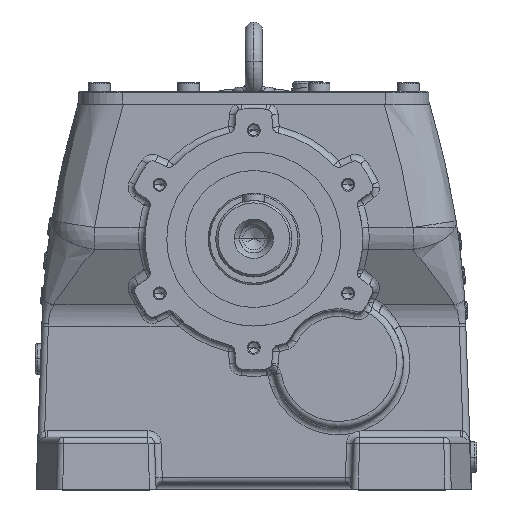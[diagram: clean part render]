
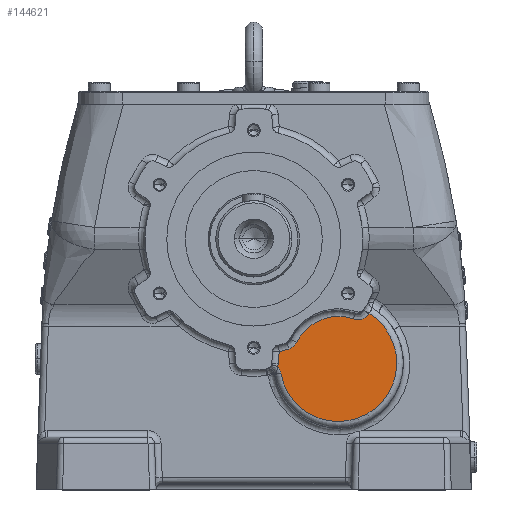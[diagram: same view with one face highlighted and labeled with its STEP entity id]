
A CAD part, top view. The second image highlights one B-rep face of the part: STEP entity #144621.
In plain terms, the highlighted planar face has unit normal (0, 0, 1).
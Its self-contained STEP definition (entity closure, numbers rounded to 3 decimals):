
#119521 = CARTESIAN_POINT ( 'NONE',  ( 11.202, -57.283, -32. ) ) ;
#119522 = DIRECTION ( 'NONE',  ( -0.087, -0.996, 0. ) ) ;
#119523 = VECTOR ( 'NONE', #119522, 1000. ) ;
#119524 = CARTESIAN_POINT ( 'NONE',  ( 10.697, -63.055, -32. ) ) ;
#119525 = LINE ( 'NONE', #119524, #119523 ) ;
#119532 = CARTESIAN_POINT ( 'NONE',  ( 11.691, -51.694, -32. ) ) ;
#119553 = CARTESIAN_POINT ( 'NONE',  ( 52.866, -34.266, -32. ) ) ;
#119554 = CARTESIAN_POINT ( 'NONE',  ( 52.939, -34.153, -32. ) ) ;
#119555 = DIRECTION ( 'NONE',  ( -1., 0., 0. ) ) ;
#119556 = DIRECTION ( 'NONE',  ( 0., 0., 1. ) ) ;
#119557 = CARTESIAN_POINT ( 'NONE',  ( 38.884, -57., -32. ) ) ;
#119558 = AXIS2_PLACEMENT_3D ( 'NONE', #119557, #119556, #119555 ) ;
#119559 = CIRCLE ( 'NONE', #119558, 26.824 ) ;
#119560 = CARTESIAN_POINT ( 'NONE',  ( 12.461, -61.614, -32. ) ) ;
#119580 = DIRECTION ( 'NONE',  ( -1., 0., 0. ) ) ;
#119581 = DIRECTION ( 'NONE',  ( 0., 0., -1. ) ) ;
#119582 = CARTESIAN_POINT ( 'NONE',  ( 0., 0., -32. ) ) ;
#119583 = AXIS2_PLACEMENT_3D ( 'NONE', #119582, #119581, #119580 ) ;
#119584 = CIRCLE ( 'NONE', #119583, 53. ) ;
#119598 = FACE_OUTER_BOUND ( 'NONE', #144589, .T. ) ;
#119606 = DIRECTION ( 'NONE',  ( -1., 0., 0. ) ) ;
#119607 = DIRECTION ( 'NONE',  ( 0., 0., 1. ) ) ;
#119608 = CARTESIAN_POINT ( 'NONE',  ( 38.884, -57., -32. ) ) ;
#119609 = AXIS2_PLACEMENT_3D ( 'NONE', #119608, #119607, #119606 ) ;
#119610 = CIRCLE ( 'NONE', #119609, 21.493 ) ;
#119629 = DIRECTION ( 'NONE',  ( -1., 0., 0. ) ) ;
#119630 = DIRECTION ( 'NONE',  ( 0., 0., -1. ) ) ;
#119631 = CARTESIAN_POINT ( 'NONE',  ( 6.376, -62.676, -32. ) ) ;
#119632 = AXIS2_PLACEMENT_3D ( 'NONE', #119631, #119630, #119629 ) ;
#119633 = CIRCLE ( 'NONE', #119632, 6.176 ) ;
#119634 = DIRECTION ( 'NONE',  ( -1., 0., 0. ) ) ;
#119635 = DIRECTION ( 'NONE',  ( 0., 0., -1. ) ) ;
#119636 = CARTESIAN_POINT ( 'NONE',  ( 5.225, -56.76, -32. ) ) ;
#119637 = AXIS2_PLACEMENT_3D ( 'NONE', #119636, #119635, #119634 ) ;
#119638 = CIRCLE ( 'NONE', #119637, 6. ) ;
#119649 = CARTESIAN_POINT ( 'NONE',  ( 16.071, -50.505, -32. ) ) ;
#119650 = DIRECTION ( 'NONE',  ( -1., 0., 0. ) ) ;
#119651 = DIRECTION ( 'NONE',  ( 0., 0., -1. ) ) ;
#119652 = CARTESIAN_POINT ( 'NONE',  ( 6.376, -62.676, -32. ) ) ;
#119653 = AXIS2_PLACEMENT_3D ( 'NONE', #119652, #119651, #119650 ) ;
#119654 = PLANE ( 'NONE',  #119653 ) ;
#119659 = CARTESIAN_POINT ( 'NONE',  ( 46.195, -36.785, -32. ) ) ;
#119660 = CARTESIAN_POINT ( 'NONE',  ( 45.878, -36.676, -32. ) ) ;
#119663 = B_SPLINE_CURVE_WITH_KNOTS ( 'NONE', 3,
 ( #119660, #119659, #119726, #119725, #119724, #119723, #119722, #119721, #119720, #119719, #119718, #119717, #119716, #119715 ),
 .UNSPECIFIED., .F., .F.,
 ( 4, 2, 2, 2, 2, 2, 4 ),
 ( 0., 0.001, 0.002, 0.003, 0.004, 0.006, 0.008 ),
 .UNSPECIFIED. ) ;
#119665 = CARTESIAN_POINT ( 'NONE',  ( 45.878, -36.676, -32. ) ) ;
#119666 = DIRECTION ( 'NONE',  ( -1., 0., 0. ) ) ;
#119667 = DIRECTION ( 'NONE',  ( 0., 0., -1. ) ) ;
#119668 = CARTESIAN_POINT ( 'NONE',  ( 0., 0., -32. ) ) ;
#119669 = CARTESIAN_POINT ( 'NONE',  ( 19.629, -47.452, -32. ) ) ;
#119670 = CARTESIAN_POINT ( 'NONE',  ( 19.449, -47.814, -32. ) ) ;
#119671 = CARTESIAN_POINT ( 'NONE',  ( 19.236, -48.152, -32. ) ) ;
#119672 = CARTESIAN_POINT ( 'NONE',  ( 18.868, -48.625, -32. ) ) ;
#119673 = CARTESIAN_POINT ( 'NONE',  ( 18.738, -48.777, -32. ) ) ;
#119674 = CARTESIAN_POINT ( 'NONE',  ( 18.46, -49.069, -32. ) ) ;
#119675 = CARTESIAN_POINT ( 'NONE',  ( 18.313, -49.208, -32. ) ) ;
#119676 = CARTESIAN_POINT ( 'NONE',  ( 17.857, -49.6, -32. ) ) ;
#119677 = CARTESIAN_POINT ( 'NONE',  ( 17.53, -49.829, -32. ) ) ;
#119678 = CARTESIAN_POINT ( 'NONE',  ( 16.83, -50.22, -32. ) ) ;
#119679 = CARTESIAN_POINT ( 'NONE',  ( 16.456, -50.382, -32. ) ) ;
#119680 = CARTESIAN_POINT ( 'NONE',  ( 16.071, -50.505, -32. ) ) ;
#119681 = AXIS2_PLACEMENT_3D ( 'NONE', #119668, #119667, #119666 ) ;
#119682 = CIRCLE ( 'NONE', #119681, 63. ) ;
#119683 = CARTESIAN_POINT ( 'NONE',  ( 10.957, -58.533, -32. ) ) ;
#119684 = B_SPLINE_CURVE_WITH_KNOTS ( 'NONE', 3,
 ( #119680, #119679, #119678, #119677, #119676, #119675, #119674, #119673, #119672, #119671, #119670, #119669 ),
 .UNSPECIFIED., .F., .F.,
 ( 4, 2, 2, 2, 2, 4 ),
 ( 0., 0.001, 0.002, 0.003, 0.004, 0.005 ),
 .UNSPECIFIED. ) ;
#119715 = CARTESIAN_POINT ( 'NONE',  ( 52.866, -34.266, -32. ) ) ;
#119716 = CARTESIAN_POINT ( 'NONE',  ( 52.502, -34.828, -32. ) ) ;
#119717 = CARTESIAN_POINT ( 'NONE',  ( 52.056, -35.315, -32. ) ) ;
#119718 = CARTESIAN_POINT ( 'NONE',  ( 51.003, -36.14, -32. ) ) ;
#119719 = CARTESIAN_POINT ( 'NONE',  ( 50.421, -36.456, -32. ) ) ;
#119720 = CARTESIAN_POINT ( 'NONE',  ( 49.473, -36.783, -32. ) ) ;
#119721 = CARTESIAN_POINT ( 'NONE',  ( 49.151, -36.865, -32. ) ) ;
#119722 = CARTESIAN_POINT ( 'NONE',  ( 48.5, -36.975, -32. ) ) ;
#119723 = CARTESIAN_POINT ( 'NONE',  ( 48.17, -37.003, -32. ) ) ;
#119724 = CARTESIAN_POINT ( 'NONE',  ( 47.502, -37.003, -32. ) ) ;
#119725 = CARTESIAN_POINT ( 'NONE',  ( 47.169, -36.976, -32. ) ) ;
#119726 = CARTESIAN_POINT ( 'NONE',  ( 46.517, -36.867, -32. ) ) ;
#119762 = CARTESIAN_POINT ( 'NONE',  ( 19.629, -47.452, -32. ) ) ;
#144526 = VERTEX_POINT ( 'NONE', #119532 ) ;
#144527 = ORIENTED_EDGE ( 'NONE', *, *, #144528, .T. ) ;
#144528 = EDGE_CURVE ( 'NONE', #144526, #144530, #119525, .T. ) ;
#144530 = VERTEX_POINT ( 'NONE', #119521 ) ;
#144537 = VERTEX_POINT ( 'NONE', #119560 ) ;
#144539 = ORIENTED_EDGE ( 'NONE', *, *, #144540, .T. ) ;
#144540 = EDGE_CURVE ( 'NONE', #144537, #144541, #119559, .T. ) ;
#144541 = VERTEX_POINT ( 'NONE', #119554 ) ;
#144542 = ORIENTED_EDGE ( 'NONE', *, *, #144651, .T. ) ;
#144544 = VERTEX_POINT ( 'NONE', #119553 ) ;
#144572 = ORIENTED_EDGE ( 'NONE', *, *, #144574, .T. ) ;
#144574 = EDGE_CURVE ( 'NONE', #144623, #144526, #119584, .T. ) ;
#144589 = EDGE_LOOP ( 'NONE', ( #144643, #144572, #144527, #144647, #144633, #144539, #144542, #144653, #144605 ) ) ;
#144605 = ORIENTED_EDGE ( 'NONE', *, *, #144607, .T. ) ;
#144607 = EDGE_CURVE ( 'NONE', #144658, #144751, #119610, .T. ) ;
#144621 = ADVANCED_FACE ( 'NONE', ( #119598 ), #119654, .F. ) ;
#144623 = VERTEX_POINT ( 'NONE', #119649 ) ;
#144631 = EDGE_CURVE ( 'NONE', #144530, #144649, #119638, .T. ) ;
#144633 = ORIENTED_EDGE ( 'NONE', *, *, #144635, .T. ) ;
#144635 = EDGE_CURVE ( 'NONE', #144649, #144537, #119633, .T. ) ;
#144643 = ORIENTED_EDGE ( 'NONE', *, *, #144645, .F. ) ;
#144645 = EDGE_CURVE ( 'NONE', #144623, #144751, #119684, .T. ) ;
#144647 = ORIENTED_EDGE ( 'NONE', *, *, #144631, .T. ) ;
#144649 = VERTEX_POINT ( 'NONE', #119683 ) ;
#144651 = EDGE_CURVE ( 'NONE', #144541, #144544, #119682, .T. ) ;
#144653 = ORIENTED_EDGE ( 'NONE', *, *, #144655, .F. ) ;
#144655 = EDGE_CURVE ( 'NONE', #144658, #144544, #119663, .T. ) ;
#144658 = VERTEX_POINT ( 'NONE', #119665 ) ;
#144751 = VERTEX_POINT ( 'NONE', #119762 ) ;
